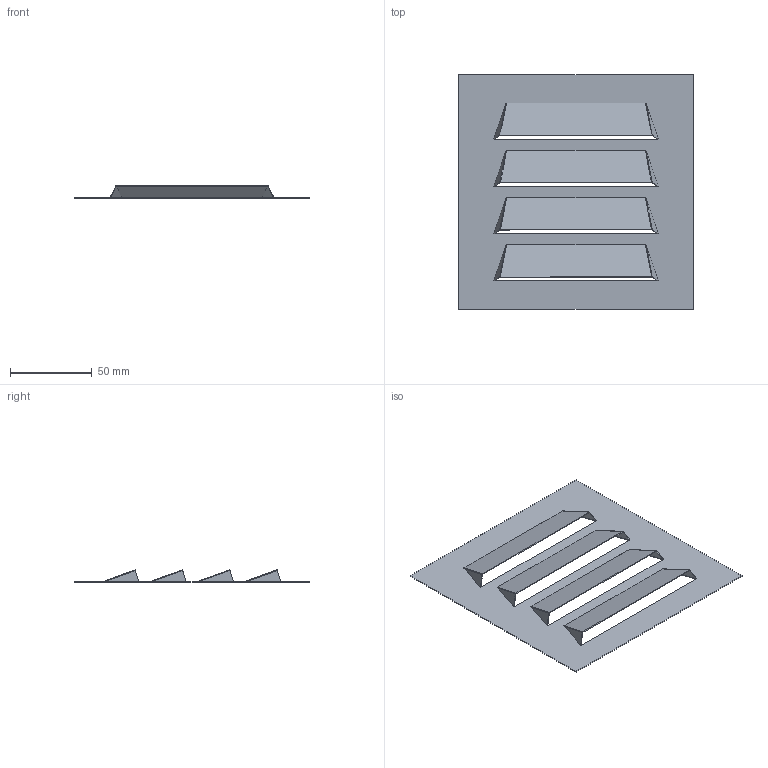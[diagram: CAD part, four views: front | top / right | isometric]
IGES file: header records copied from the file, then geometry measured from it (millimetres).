
Start section: SolidWorks IGES file using analytic representation for surfaces
Global section: file name: C:\Users\cbrechard\Desktop\GA 751.IGS; native system: SolidWorks 2017; preprocessor: SolidWorks 2017; author: cbrechard; date: 191017.105518; units: millimetre
Bounding box: 144 x 144 x 7.57 mm (x, y, z)
Surface area: 42660.3 mm2 (no closed solid volume)
Topology: 0 solids, 0 shells, 106 faces, 568 edges, 568 vertices
Faces by surface type: bspline 90, revolution 16
